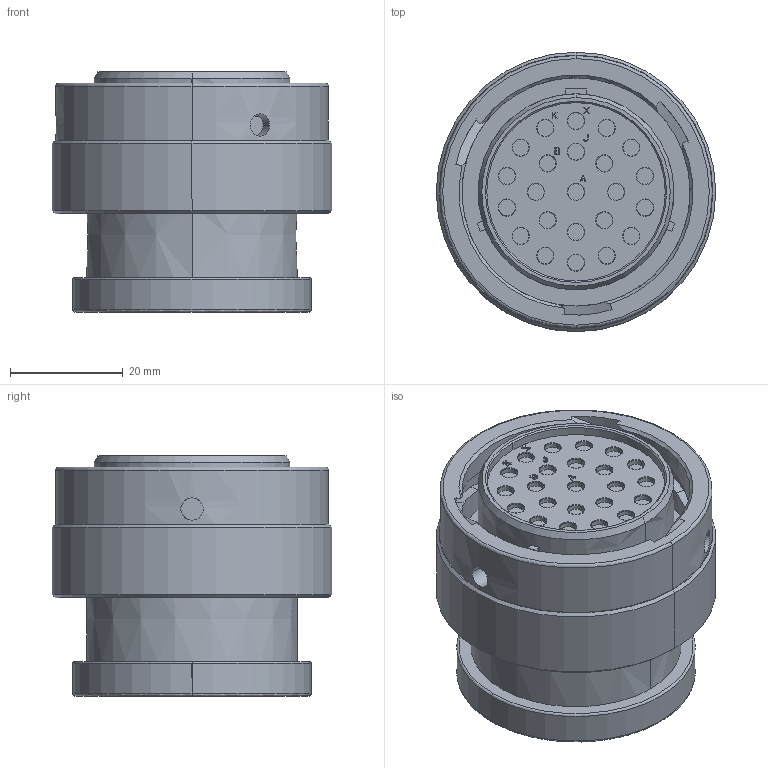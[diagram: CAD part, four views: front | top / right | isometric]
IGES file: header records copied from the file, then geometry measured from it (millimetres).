
Start section:  PTC IGES file: c-hdp26-24-23st-l017-99-3d.igs
Global section: file name: c-hdp26-24-23st-l017-99-3d.igs; native system: Pro/ENGINEER by Parametric Technology Corporation; preprocessor: 2011490; author: workeradm; organization: Unknown; units: millimetre
Bounding box: 49.53 x 49.53 x 42.55 mm (x, y, z)
Surface area: 15318.9 mm2 (no closed solid volume)
Topology: 0 solids, 0 shells, 575 faces, 2614 edges, 2614 vertices
Faces by surface type: revolution 339, bspline 236
